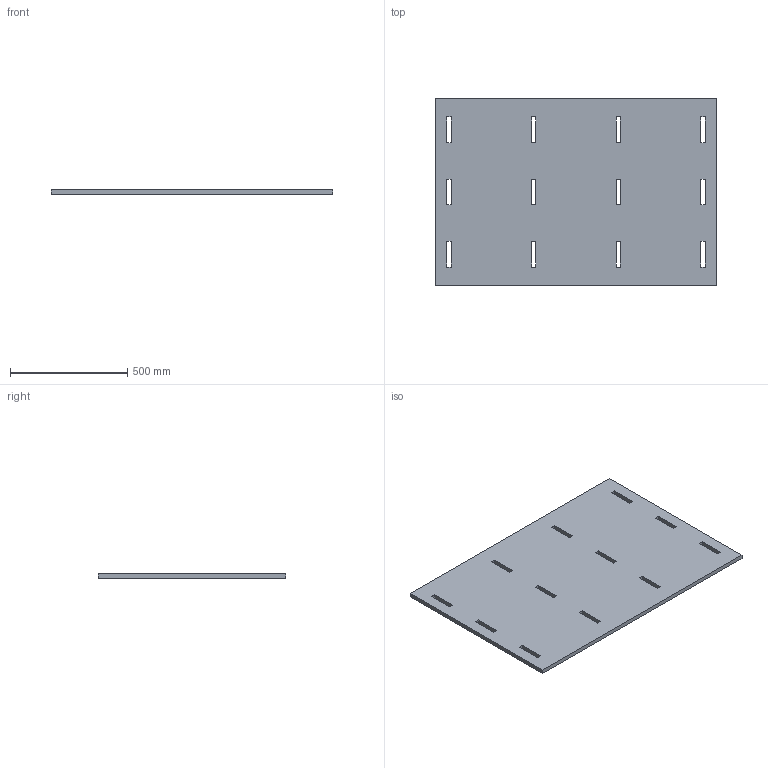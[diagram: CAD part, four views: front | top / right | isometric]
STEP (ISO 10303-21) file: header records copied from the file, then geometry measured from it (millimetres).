
FILE_DESCRIPTION(('Open CASCADE Model'),'2;1');
FILE_NAME('Open CASCADE Shape Model','2026-09-27T09:04:20',('Author'),( 'Open CASCADE'),'Open CASCADE STEP processor 7.9','Open CASCADE 7.9' ,'Unknown');
FILE_SCHEMA(('AUTOMOTIVE_DESIGN { 1 0 10303 214 1 1 1 1 }'));
Length unit declared in the file: millimetre
Products named in the file (1): Open CASCADE STEP translator 7.9 1
Bounding box: 1200 x 800 x 18 mm (x, y, z)
Volume: 16847568 mm3; surface area: 1999334.4 mm2
Topology: 1 solids, 1 shells, 54 faces, 156 edges, 104 vertices
Faces by surface type: plane 54
Entity records: 3634 total; most frequent: CARTESIAN_POINT 819, DIRECTION 386, ORIENTED_EDGE 312, PCURVE 312, DEFINITIONAL_REPRESENTATION 312, LINE 276, VECTOR 276, B_SPLINE_CURVE_WITH_KNOTS 192
